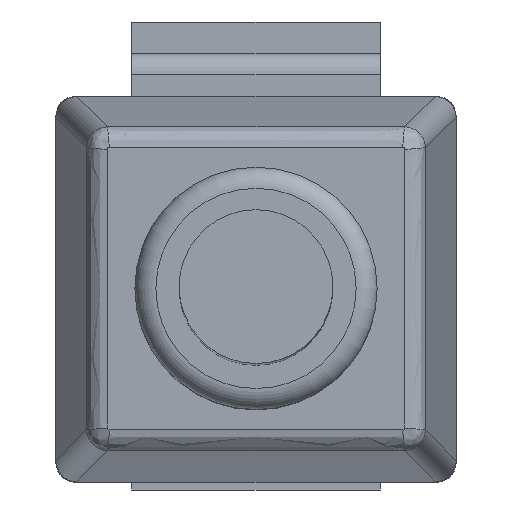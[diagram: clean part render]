
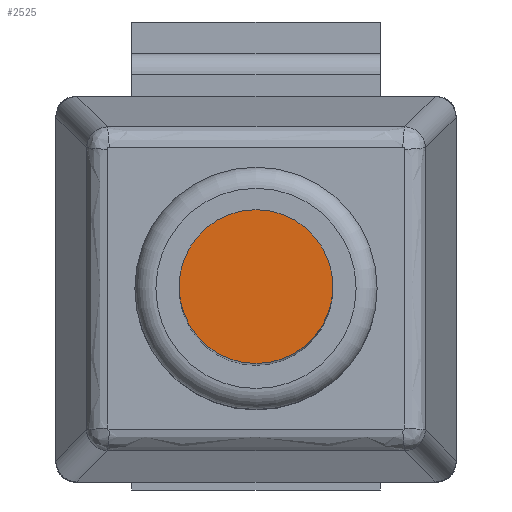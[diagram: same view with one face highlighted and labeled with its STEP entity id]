
A CAD part, top view. The second image highlights one B-rep face of the part: STEP entity #2525.
In plain terms, the highlighted planar face has unit normal (0, 0, 1).
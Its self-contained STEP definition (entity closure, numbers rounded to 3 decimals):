
#2277 = VERTEX_POINT('',#2278);
#2278 = CARTESIAN_POINT('',(3.65,0.,96.2));
#2284 = EDGE_CURVE('',#2277,#2277,#2285,.T.);
#2285 = CIRCLE('',#2286,3.65);
#2286 = AXIS2_PLACEMENT_3D('',#2287,#2288,#2289);
#2287 = CARTESIAN_POINT('',(0.,0.,96.2));
#2288 = DIRECTION('',(0.,0.,1.));
#2289 = DIRECTION('',(1.,0.,0.));
#2525 = ADVANCED_FACE('',(#2526),#2529,.T.);
#2526 = FACE_BOUND('',#2527,.T.);
#2527 = EDGE_LOOP('',(#2528));
#2528 = ORIENTED_EDGE('',*,*,#2284,.T.);
#2529 = PLANE('',#2530);
#2530 = AXIS2_PLACEMENT_3D('',#2531,#2532,#2533);
#2531 = CARTESIAN_POINT('',(0.,0.,96.2));
#2532 = DIRECTION('',(0.,0.,1.));
#2533 = DIRECTION('',(1.,0.,0.));
